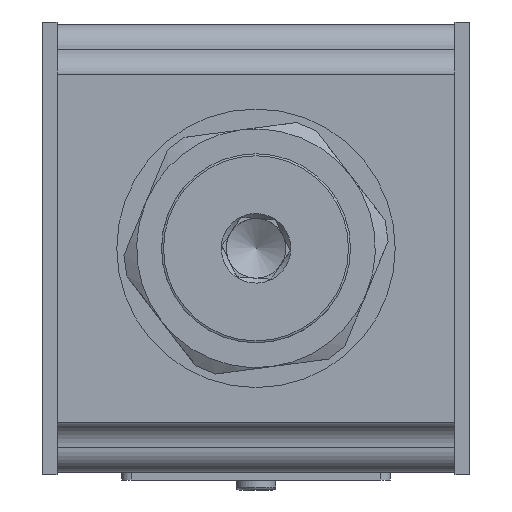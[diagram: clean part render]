
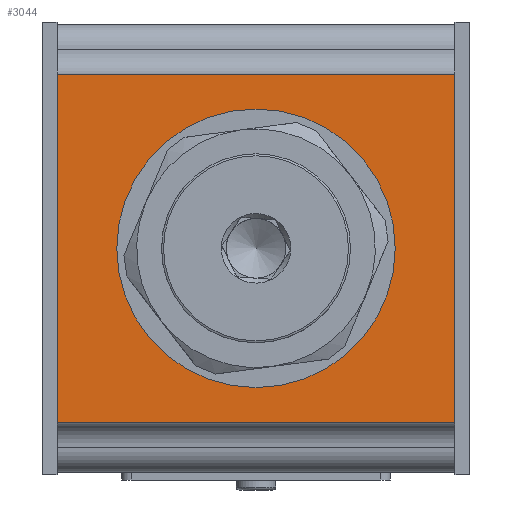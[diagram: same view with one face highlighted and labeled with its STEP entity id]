
A CAD part, left-side view. The second image highlights one B-rep face of the part: STEP entity #3044.
In plain terms, the highlighted planar face has unit normal (-1, 0, 0).
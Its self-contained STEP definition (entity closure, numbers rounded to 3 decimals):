
#1122=CIRCLE('',#15419,14.);
#2173=FACE_BOUND('',#5085,.T.);
#2174=FACE_BOUND('',#5086,.T.);
#3044=ADVANCED_FACE('',(#2173,#2174),#3558,.T.);
#3558=PLANE('',#15420);
#5085=EDGE_LOOP('',(#8678));
#5086=EDGE_LOOP('',(#8679,#8680,#8681,#8682));
#8678=ORIENTED_EDGE('',*,*,#12642,.T.);
#8679=ORIENTED_EDGE('',*,*,#12337,.F.);
#8680=ORIENTED_EDGE('',*,*,#12300,.T.);
#8681=ORIENTED_EDGE('',*,*,#12339,.F.);
#8682=ORIENTED_EDGE('',*,*,#12327,.F.);
#10704=VERTEX_POINT('',#47550);
#10705=VERTEX_POINT('',#47552);
#10731=VERTEX_POINT('',#47622);
#10732=VERTEX_POINT('',#47624);
#10905=VERTEX_POINT('',#54905);
#12300=EDGE_CURVE('',#10705,#10704,#13454,.T.);
#12327=EDGE_CURVE('',#10731,#10732,#13465,.T.);
#12337=EDGE_CURVE('',#10705,#10731,#13471,.T.);
#12339=EDGE_CURVE('',#10732,#10704,#13473,.T.);
#12642=EDGE_CURVE('',#10905,#10905,#1122,.T.);
#13454=LINE('',#47551,#14001);
#13465=LINE('',#47623,#14012);
#13471=LINE('',#47641,#14018);
#13473=LINE('',#47644,#14020);
#14001=VECTOR('',#17729,1.);
#14012=VECTOR('',#17772,1.);
#14018=VECTOR('',#17792,1.);
#14020=VECTOR('',#17796,1.);
#15419=AXIS2_PLACEMENT_3D('',#54904,#18368,#18369);
#15420=AXIS2_PLACEMENT_3D('',#54906,#18370,#18371);
#17729=DIRECTION('',(0.,0.,-1.));
#17772=DIRECTION('',(0.,0.,-1.));
#17792=DIRECTION('',(0.,-1.,0.));
#17796=DIRECTION('',(0.,1.,0.));
#18368=DIRECTION('',(1.,0.,0.));
#18369=DIRECTION('',(0.,0.,-1.));
#18370=DIRECTION('',(-1.,0.,0.));
#18371=DIRECTION('',(0.,0.,1.));
#47550=CARTESIAN_POINT('',(125.295,124.164,268.5));
#47551=CARTESIAN_POINT('',(125.295,124.164,306.));
#47552=CARTESIAN_POINT('',(125.295,124.164,303.5));
#47622=CARTESIAN_POINT('',(125.295,84.164,303.5));
#47623=CARTESIAN_POINT('',(125.295,84.164,306.));
#47624=CARTESIAN_POINT('',(125.295,84.164,268.5));
#47641=CARTESIAN_POINT('',(125.295,127.164,303.5));
#47644=CARTESIAN_POINT('',(125.295,127.164,268.5));
#54904=CARTESIAN_POINT('',(125.295,104.164,286.));
#54905=CARTESIAN_POINT('',(125.295,104.164,272.));
#54906=CARTESIAN_POINT('',(125.295,104.164,286.));
